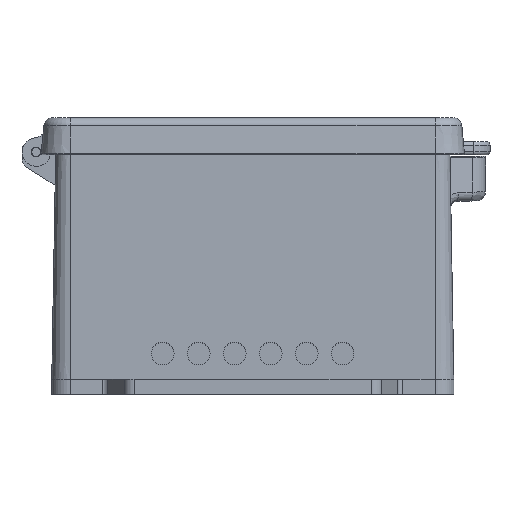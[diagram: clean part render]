
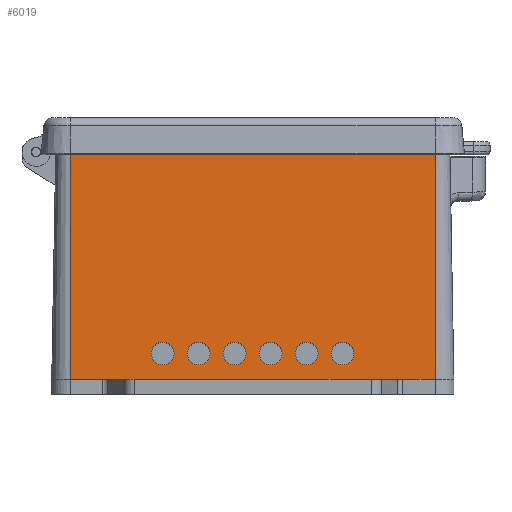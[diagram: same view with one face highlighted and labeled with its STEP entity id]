
A CAD part, front view. The second image highlights one B-rep face of the part: STEP entity #6019.
In plain terms, the highlighted planar face has unit normal (0, -1, 0.017).
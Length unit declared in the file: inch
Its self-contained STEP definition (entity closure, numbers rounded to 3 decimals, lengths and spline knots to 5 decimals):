
#90=FACE_BOUND('',#799,.T.);
#91=FACE_BOUND('',#800,.T.);
#92=FACE_BOUND('',#801,.T.);
#93=FACE_BOUND('',#802,.T.);
#94=FACE_BOUND('',#803,.T.);
#95=FACE_BOUND('',#804,.T.);
#163=ELLIPSE('',#6484,4.298,0.075);
#164=ELLIPSE('',#6485,4.298,0.075);
#224=PLANE('',#6483);
#441=FACE_OUTER_BOUND('',#798,.T.);
#798=EDGE_LOOP('',(#4596,#4597,#4598,#4599,#4600,#4601,#4602,#4603,#4604,
#4605));
#799=EDGE_LOOP('',(#4606));
#800=EDGE_LOOP('',(#4607));
#801=EDGE_LOOP('',(#4608));
#802=EDGE_LOOP('',(#4609));
#803=EDGE_LOOP('',(#4610));
#804=EDGE_LOOP('',(#4611));
#1259=LINE('',#9558,#1809);
#1260=LINE('',#9562,#1810);
#1261=LINE('',#9564,#1811);
#1262=LINE('',#9566,#1812);
#1263=LINE('',#9568,#1813);
#1264=LINE('',#9570,#1814);
#1265=LINE('',#9572,#1815);
#1266=LINE('',#9574,#1816);
#1809=VECTOR('',#7586,0.3937);
#1810=VECTOR('',#7589,0.3937);
#1811=VECTOR('',#7590,0.3937);
#1812=VECTOR('',#7591,0.3937);
#1813=VECTOR('',#7592,0.3937);
#1814=VECTOR('',#7593,0.3937);
#1815=VECTOR('',#7594,0.3937);
#1816=VECTOR('',#7595,0.3937);
#2163=CIRCLE('',#6253,0.1575);
#2165=CIRCLE('',#6256,0.1575);
#2167=CIRCLE('',#6259,0.1575);
#2169=CIRCLE('',#6262,0.1575);
#2171=CIRCLE('',#6265,0.1575);
#2173=CIRCLE('',#6268,0.1575);
#2494=VERTEX_POINT('',#8807);
#2496=VERTEX_POINT('',#8813);
#2498=VERTEX_POINT('',#8819);
#2500=VERTEX_POINT('',#8825);
#2502=VERTEX_POINT('',#8831);
#2504=VERTEX_POINT('',#8837);
#2710=VERTEX_POINT('',#9556);
#2711=VERTEX_POINT('',#9557);
#2712=VERTEX_POINT('',#9559);
#2713=VERTEX_POINT('',#9561);
#2714=VERTEX_POINT('',#9563);
#2715=VERTEX_POINT('',#9565);
#2716=VERTEX_POINT('',#9567);
#2717=VERTEX_POINT('',#9569);
#2718=VERTEX_POINT('',#9571);
#2719=VERTEX_POINT('',#9573);
#3086=EDGE_CURVE('',#2494,#2494,#2163,.T.);
#3089=EDGE_CURVE('',#2496,#2496,#2165,.T.);
#3092=EDGE_CURVE('',#2498,#2498,#2167,.T.);
#3095=EDGE_CURVE('',#2500,#2500,#2169,.T.);
#3098=EDGE_CURVE('',#2502,#2502,#2171,.T.);
#3101=EDGE_CURVE('',#2504,#2504,#2173,.T.);
#3409=EDGE_CURVE('',#2710,#2711,#1259,.T.);
#3410=EDGE_CURVE('',#2712,#2710,#163,.T.);
#3411=EDGE_CURVE('',#2713,#2712,#1260,.T.);
#3412=EDGE_CURVE('',#2714,#2713,#1261,.T.);
#3413=EDGE_CURVE('',#2714,#2715,#1262,.T.);
#3414=EDGE_CURVE('',#2715,#2716,#1263,.T.);
#3415=EDGE_CURVE('',#2717,#2716,#1264,.T.);
#3416=EDGE_CURVE('',#2718,#2717,#1265,.T.);
#3417=EDGE_CURVE('',#2719,#2718,#1266,.T.);
#3418=EDGE_CURVE('',#2711,#2719,#164,.T.);
#4596=ORIENTED_EDGE('',*,*,#3409,.F.);
#4597=ORIENTED_EDGE('',*,*,#3410,.F.);
#4598=ORIENTED_EDGE('',*,*,#3411,.F.);
#4599=ORIENTED_EDGE('',*,*,#3412,.F.);
#4600=ORIENTED_EDGE('',*,*,#3413,.T.);
#4601=ORIENTED_EDGE('',*,*,#3414,.T.);
#4602=ORIENTED_EDGE('',*,*,#3415,.F.);
#4603=ORIENTED_EDGE('',*,*,#3416,.F.);
#4604=ORIENTED_EDGE('',*,*,#3417,.F.);
#4605=ORIENTED_EDGE('',*,*,#3418,.F.);
#4606=ORIENTED_EDGE('',*,*,#3086,.T.);
#4607=ORIENTED_EDGE('',*,*,#3089,.T.);
#4608=ORIENTED_EDGE('',*,*,#3092,.T.);
#4609=ORIENTED_EDGE('',*,*,#3095,.T.);
#4610=ORIENTED_EDGE('',*,*,#3098,.T.);
#4611=ORIENTED_EDGE('',*,*,#3101,.T.);
#6019=ADVANCED_FACE('',(#441,#90,#91,#92,#93,#94,#95),#224,.T.);
#6253=AXIS2_PLACEMENT_3D('',#8808,#6927,#6928);
#6256=AXIS2_PLACEMENT_3D('',#8814,#6934,#6935);
#6259=AXIS2_PLACEMENT_3D('',#8820,#6941,#6942);
#6262=AXIS2_PLACEMENT_3D('',#8826,#6948,#6949);
#6265=AXIS2_PLACEMENT_3D('',#8832,#6955,#6956);
#6268=AXIS2_PLACEMENT_3D('',#8838,#6962,#6963);
#6483=AXIS2_PLACEMENT_3D('',#9555,#7584,#7585);
#6484=AXIS2_PLACEMENT_3D('',#9560,#7587,#7588);
#6485=AXIS2_PLACEMENT_3D('',#9575,#7596,#7597);
#6927=DIRECTION('center_axis',(0.,1.,-0.017));
#6928=DIRECTION('ref_axis',(1.,0.,0.));
#6934=DIRECTION('center_axis',(0.,1.,-0.017));
#6935=DIRECTION('ref_axis',(1.,0.,0.));
#6941=DIRECTION('center_axis',(0.,1.,-0.017));
#6942=DIRECTION('ref_axis',(1.,0.,0.));
#6948=DIRECTION('center_axis',(0.,1.,-0.017));
#6949=DIRECTION('ref_axis',(1.,0.,0.));
#6955=DIRECTION('center_axis',(0.,1.,-0.017));
#6956=DIRECTION('ref_axis',(1.,0.,0.));
#6962=DIRECTION('center_axis',(0.,1.,-0.017));
#6963=DIRECTION('ref_axis',(1.,0.,0.));
#7584=DIRECTION('center_axis',(0.,-1.,
0.017));
#7585=DIRECTION('ref_axis',(0.,0.017,1.));
#7586=DIRECTION('',(-1.,0.,0.));
#7587=DIRECTION('center_axis',(0.,1.,-0.017));
#7588=DIRECTION('ref_axis',(0.,0.017,1.));
#7589=DIRECTION('',(-1.,0.,0.));
#7590=DIRECTION('',(-1.,0.,0.));
#7591=DIRECTION('',(0.,0.017,1.));
#7592=DIRECTION('',(-1.,0.,0.));
#7593=DIRECTION('',(0.,0.017,1.));
#7594=DIRECTION('',(-1.,0.,0.));
#7595=DIRECTION('',(-1.,0.,0.));
#7596=DIRECTION('center_axis',(0.,1.,-0.017));
#7597=DIRECTION('ref_axis',(0.,0.017,1.));
#8807=CARTESIAN_POINT('',(0.09056,-3.06051,0.54792));
#8808=CARTESIAN_POINT('Origin',(0.24806,-3.06051,0.54792));
#8813=CARTESIAN_POINT('',(-1.40944,-3.06051,0.54792));
#8814=CARTESIAN_POINT('Origin',(-1.25194,-3.06051,0.54792));
#8819=CARTESIAN_POINT('',(0.59056,-3.06051,0.54792));
#8820=CARTESIAN_POINT('Origin',(0.74806,-3.06051,0.54792));
#8825=CARTESIAN_POINT('',(-0.40944,-3.06051,0.54792));
#8826=CARTESIAN_POINT('Origin',(-0.25194,-3.06051,0.54792));
#8831=CARTESIAN_POINT('',(-0.90944,-3.06051,0.54792));
#8832=CARTESIAN_POINT('Origin',(-0.75194,-3.06051,0.54792));
#8837=CARTESIAN_POINT('',(1.09056,-3.06051,0.54792));
#8838=CARTESIAN_POINT('Origin',(1.24806,-3.06051,0.54792));
#9555=CARTESIAN_POINT('Origin',(2.53266,-3.06676,0.18981));
#9556=CARTESIAN_POINT('',(2.0835,-3.06674,0.19067));
#9557=CARTESIAN_POINT('',(-2.0835,-3.06674,0.19067));
#9558=CARTESIAN_POINT('',(1.26633,-3.06674,0.19067));
#9559=CARTESIAN_POINT('',(2.082,-3.06676,0.18981));
#9560=CARTESIAN_POINT('Origin',(2.0835,-3.14174,-4.10667));
#9561=CARTESIAN_POINT('',(2.0835,-3.06675,0.18981));
#9562=CARTESIAN_POINT('',(2.53266,-3.06676,0.18981));
#9563=CARTESIAN_POINT('',(2.53266,-3.06674,0.18981));
#9564=CARTESIAN_POINT('',(2.36308,-3.06674,0.18981));
#9565=CARTESIAN_POINT('',(2.53266,-3.01216,3.31795));
#9566=CARTESIAN_POINT('',(2.53266,-3.01216,3.31795));
#9567=CARTESIAN_POINT('',(-2.53266,-3.01216,3.31795));
#9568=CARTESIAN_POINT('',(2.53266,-3.01216,3.31795));
#9569=CARTESIAN_POINT('',(-2.53266,-3.06676,0.18981));
#9570=CARTESIAN_POINT('',(-2.53266,-3.01216,3.31795));
#9571=CARTESIAN_POINT('',(-2.0835,-3.06676,0.18981));
#9572=CARTESIAN_POINT('',(2.53266,-3.06676,0.18981));
#9573=CARTESIAN_POINT('',(-2.082,-3.06676,0.18981));
#9574=CARTESIAN_POINT('',(2.53266,-3.06676,0.18981));
#9575=CARTESIAN_POINT('Origin',(-2.0835,-3.14174,-4.10667));
